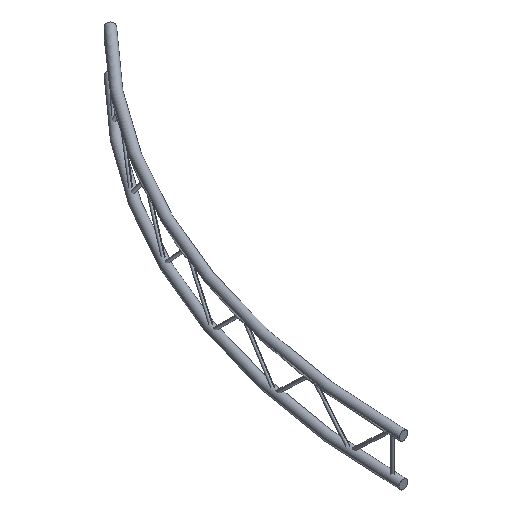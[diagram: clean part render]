
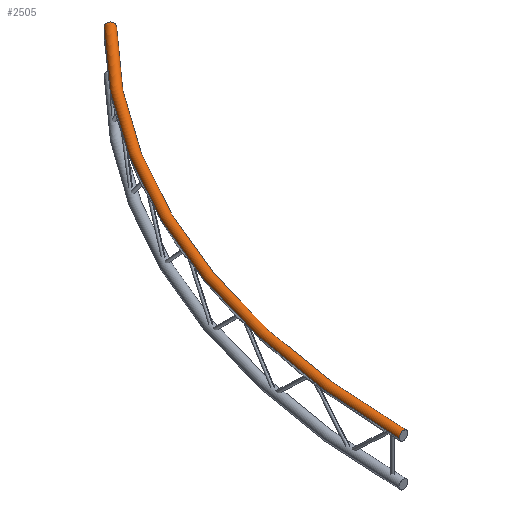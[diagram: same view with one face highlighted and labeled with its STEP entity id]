
A CAD part, isometric view. The second image highlights one B-rep face of the part: STEP entity #2505.
In plain terms, the highlighted toroidal (fillet/blend) face has major radius 3975 mm and minor radius 25 mm.
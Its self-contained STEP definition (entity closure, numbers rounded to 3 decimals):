
#327 = TOROIDAL_SURFACE ( 'NONE', #400, 3975., 25. ) ;
#328 = FACE_OUTER_BOUND ( 'NONE', #2506, .T. ) ;
#379 = DIRECTION ( 'NONE',  ( 0., 0., 1. ) ) ;
#380 = DIRECTION ( 'NONE',  ( 0., 1., 0. ) ) ;
#381 = CARTESIAN_POINT ( 'NONE',  ( -3975., 0., 0. ) ) ;
#382 = AXIS2_PLACEMENT_3D ( 'NONE', #381, #380, #379 ) ;
#383 = CIRCLE ( 'NONE', #382, 25. ) ;
#385 = CARTESIAN_POINT ( 'NONE',  ( -4000., 0., 0. ) ) ;
#386 = DIRECTION ( 'NONE',  ( 1., 0., 0. ) ) ;
#387 = DIRECTION ( 'NONE',  ( 0., 0., 1. ) ) ;
#388 = CARTESIAN_POINT ( 'NONE',  ( 0., 0., 0. ) ) ;
#389 = AXIS2_PLACEMENT_3D ( 'NONE', #388, #387, #386 ) ;
#390 = CIRCLE ( 'NONE', #389, 4000. ) ;
#391 = CARTESIAN_POINT ( 'NONE',  ( -2793.072, 2793.072, 0. ) ) ;
#392 = CARTESIAN_POINT ( 'NONE',  ( -2828.427, 2828.427, 0. ) ) ;
#393 = DIRECTION ( 'NONE',  ( 0., 0., 1. ) ) ;
#394 = DIRECTION ( 'NONE',  ( 0.707, 0.707, 0. ) ) ;
#395 = CARTESIAN_POINT ( 'NONE',  ( -2810.749, 2810.749, 0. ) ) ;
#396 = AXIS2_PLACEMENT_3D ( 'NONE', #395, #394, #393 ) ;
#397 = DIRECTION ( 'NONE',  ( 1., 0., 0. ) ) ;
#398 = DIRECTION ( 'NONE',  ( 0., 0., 1. ) ) ;
#399 = CARTESIAN_POINT ( 'NONE',  ( 0., 0., 0. ) ) ;
#400 = AXIS2_PLACEMENT_3D ( 'NONE', #399, #398, #397 ) ;
#401 = CIRCLE ( 'NONE', #396, 25. ) ;
#507 = CARTESIAN_POINT ( 'NONE',  ( -3950., 0., 0. ) ) ;
#523 = DIRECTION ( 'NONE',  ( 1., 0., 0. ) ) ;
#524 = DIRECTION ( 'NONE',  ( 0., 0., 1. ) ) ;
#525 = CARTESIAN_POINT ( 'NONE',  ( 0., 0., 0. ) ) ;
#526 = AXIS2_PLACEMENT_3D ( 'NONE', #525, #524, #523 ) ;
#527 = CIRCLE ( 'NONE', #526, 3950. ) ;
#2505 = ADVANCED_FACE ( 'NONE', ( #328 ), #327, .T. ) ;
#2506 = EDGE_LOOP ( 'NONE', ( #2507, #2511, #2514, #2517 ) ) ;
#2507 = ORIENTED_EDGE ( 'NONE', *, *, #2508, .F. ) ;
#2508 = EDGE_CURVE ( 'NONE', #2509, #2510, #401, .T. ) ;
#2509 = VERTEX_POINT ( 'NONE', #392 ) ;
#2510 = VERTEX_POINT ( 'NONE', #391 ) ;
#2511 = ORIENTED_EDGE ( 'NONE', *, *, #2512, .T. ) ;
#2512 = EDGE_CURVE ( 'NONE', #2509, #2513, #390, .T. ) ;
#2513 = VERTEX_POINT ( 'NONE', #385 ) ;
#2514 = ORIENTED_EDGE ( 'NONE', *, *, #2515, .T. ) ;
#2515 = EDGE_CURVE ( 'NONE', #2513, #2516, #383, .T. ) ;
#2516 = VERTEX_POINT ( 'NONE', #507 ) ;
#2517 = ORIENTED_EDGE ( 'NONE', *, *, #2518, .F. ) ;
#2518 = EDGE_CURVE ( 'NONE', #2510, #2516, #527, .T. ) ;
